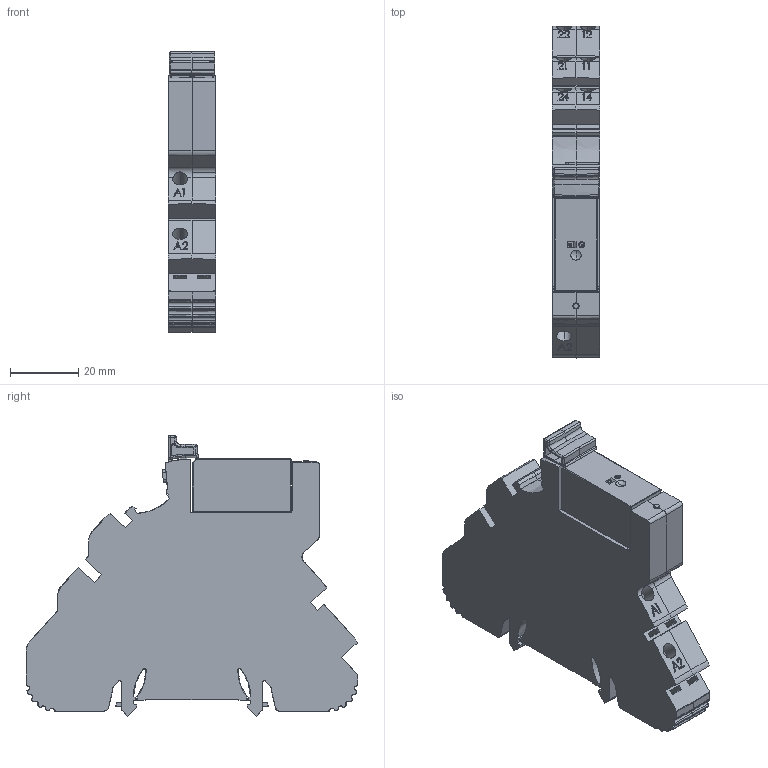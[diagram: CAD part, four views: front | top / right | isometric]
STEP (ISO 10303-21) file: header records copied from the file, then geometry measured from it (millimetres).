
FILE_DESCRIPTION (( 'STEP AP214' ), '1' );
FILE_NAME ('CRINT-C23x.STEP', '2024-04-04T13:03:58', ( '' ), ( '' ), 'SwSTEP 2.0', 'SolidWorks 2022', '' );
FILE_SCHEMA (( 'AUTOMOTIVE_DESIGN' ));
Length unit declared in the file: millimetre
Products named in the file (1): CRINT-C23x
Bounding box: 13.8 x 97.44 x 82.43 mm (x, y, z)
Volume: 69713.6 mm3; surface area: 21193 mm2
Topology: 1 solids, 6 shells, 1057 faces, 2718 edges, 1695 vertices
Faces by surface type: plane 706, cylinder 124, bspline 108, cone 88, sphere 16, torus 15
Entity records: 39591 total; most frequent: CARTESIAN_POINT 11799, ORIENTED_EDGE 5406, DIRECTION 4371, EDGE_CURVE 2703, VECTOR 1913, LINE 1913, VERTEX_POINT 1695, AXIS2_PLACEMENT_3D 1229
